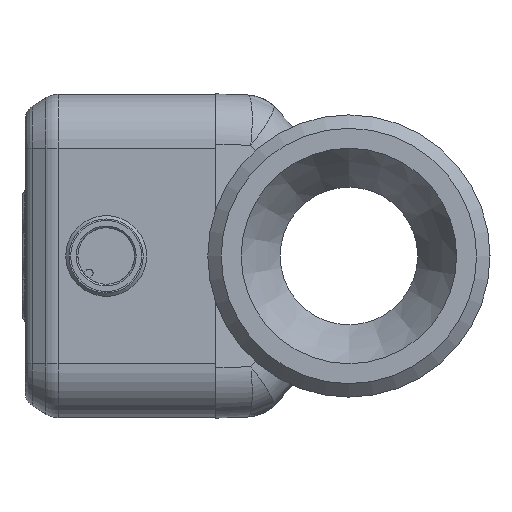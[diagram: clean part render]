
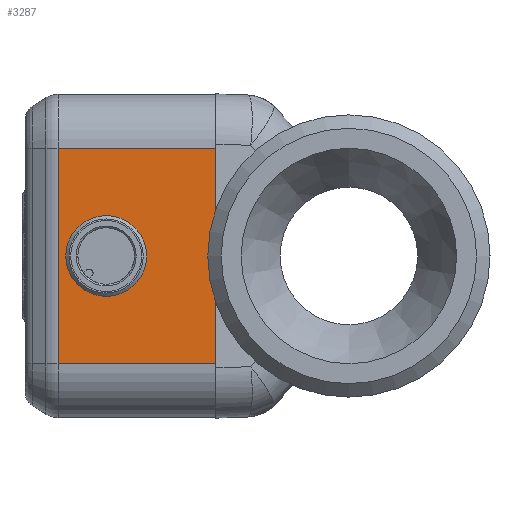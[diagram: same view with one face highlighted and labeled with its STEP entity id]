
A CAD part, left-side view. The second image highlights one B-rep face of the part: STEP entity #3287.
In plain terms, the highlighted planar face has unit normal (-1, 0, 0).
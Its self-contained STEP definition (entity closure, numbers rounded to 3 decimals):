
#234=LINE('',#4848,#354);
#239=LINE('',#4858,#359);
#240=LINE('',#4860,#360);
#241=LINE('',#4862,#361);
#354=VECTOR('',#3914,1000.);
#359=VECTOR('',#3927,1000.);
#360=VECTOR('',#3928,1000.);
#361=VECTOR('',#3929,1000.);
#610=ORIENTED_EDGE('',*,*,#1193,.T.);
#611=ORIENTED_EDGE('',*,*,#1194,.T.);
#612=ORIENTED_EDGE('',*,*,#1195,.T.);
#613=ORIENTED_EDGE('',*,*,#1196,.F.);
#614=ORIENTED_EDGE('',*,*,#1187,.T.);
#1187=EDGE_CURVE('',#1448,#1457,#234,.T.);
#1193=EDGE_CURVE('',#1463,#1463,#1615,.F.);
#1194=EDGE_CURVE('',#1457,#1464,#239,.T.);
#1195=EDGE_CURVE('',#1464,#1465,#240,.T.);
#1196=EDGE_CURVE('',#1448,#1465,#241,.T.);
#1448=VERTEX_POINT('',#4804);
#1457=VERTEX_POINT('',#4823);
#1463=VERTEX_POINT('',#4857);
#1464=VERTEX_POINT('',#4859);
#1465=VERTEX_POINT('',#4861);
#1615=CIRCLE('',#3495,6.);
#1751=EDGE_LOOP('',(#610));
#1752=EDGE_LOOP('',(#611,#612,#613,#614));
#1957=FACE_BOUND('',#1751,.T.);
#1958=FACE_BOUND('',#1752,.T.);
#2133=PLANE('',#3494);
#3287=ADVANCED_FACE('',(#1957,#1958),#2133,.T.);
#3494=AXIS2_PLACEMENT_3D('',#4855,#3923,#3924);
#3495=AXIS2_PLACEMENT_3D('',#4856,#3925,#3926);
#3914=DIRECTION('',(0.,0.,1.));
#3923=DIRECTION('',(-1.,0.,0.));
#3924=DIRECTION('',(0.,0.,1.));
#3925=DIRECTION('',(-1.,0.,0.));
#3926=DIRECTION('',(0.,0.,1.));
#3927=DIRECTION('',(0.,1.,0.));
#3928=DIRECTION('',(0.,0.,-1.));
#3929=DIRECTION('',(0.,1.,0.));
#4804=CARTESIAN_POINT('',(-43.212,19.765,-16.));
#4823=CARTESIAN_POINT('',(-43.212,19.765,16.));
#4848=CARTESIAN_POINT('',(-43.212,19.765,-16.));
#4855=CARTESIAN_POINT('',(-43.212,19.765,-16.));
#4856=CARTESIAN_POINT('',(-43.212,36.045,0.));
#4857=CARTESIAN_POINT('',(-43.212,36.045,6.));
#4858=CARTESIAN_POINT('',(-43.212,19.765,16.));
#4859=CARTESIAN_POINT('',(-43.212,43.191,16.));
#4860=CARTESIAN_POINT('',(-43.212,43.191,-16.));
#4861=CARTESIAN_POINT('',(-43.212,43.191,-16.));
#4862=CARTESIAN_POINT('',(-43.212,19.765,-16.));
